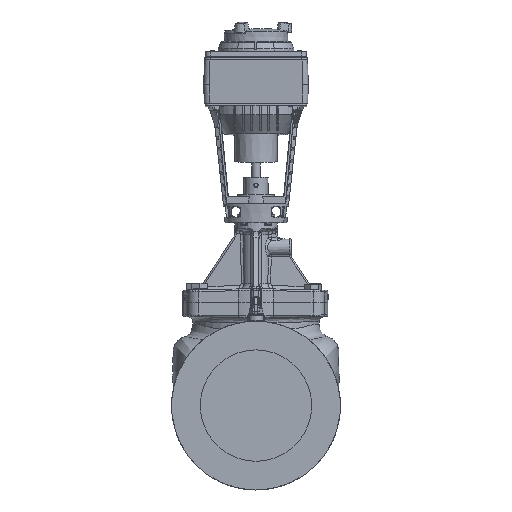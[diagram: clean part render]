
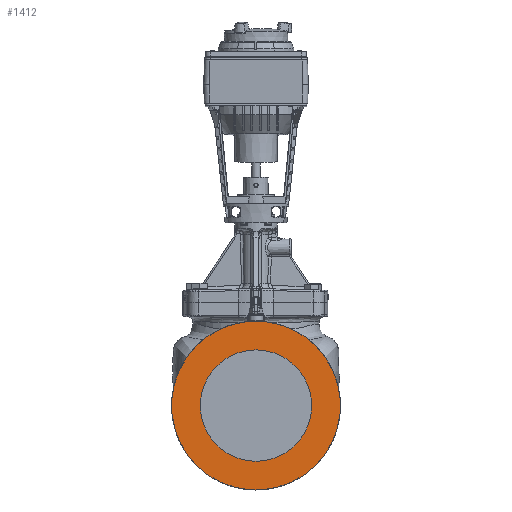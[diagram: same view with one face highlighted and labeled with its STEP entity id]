
A CAD part, left-side view. The second image highlights one B-rep face of the part: STEP entity #1412.
In plain terms, the highlighted planar face has unit normal (-1, 0, 0).
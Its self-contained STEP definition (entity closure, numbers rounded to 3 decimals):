
#1377=CARTESIAN_POINT('',(-152.0,0.0,88.0));
#1378=DIRECTION('',(1.0,0.0,0.0));
#1379=DIRECTION('',(0.0,0.0,-1.0));
#1380=AXIS2_PLACEMENT_3D('',#1377,#1378,#1379);
#1381=PLANE('',#1380);
#1382=CARTESIAN_POINT('',(-152.0,-9.987,99.5));
#1383=VERTEX_POINT('',#1382);
#1384=CARTESIAN_POINT('',(-152.0,9.987,99.5));
#1385=VERTEX_POINT('',#1384);
#1386=CARTESIAN_POINT('',(-152.0,0.0,0.0));
#1387=DIRECTION('',(1.0,0.0,0.0));
#1388=DIRECTION('',(0.0,0.0,1.0));
#1389=AXIS2_PLACEMENT_3D('',#1386,#1387,#1388);
#1390=CIRCLE('',#1389,100.0);
#1391=EDGE_CURVE('',#1383,#1385,#1390,.T.);
#1392=ORIENTED_EDGE('',*,*,#1391,.F.);
#1393=CARTESIAN_POINT('',(-152.0,9.987,99.5));
#1394=DIRECTION('',(0.0,-1.0,0.0));
#1395=VECTOR('',#1394,19.975);
#1396=LINE('',#1393,#1395);
#1397=EDGE_CURVE('',#1385,#1383,#1396,.T.);
#1398=ORIENTED_EDGE('',*,*,#1397,.F.);
#1399=EDGE_LOOP('',(#1392,#1398));
#1400=FACE_OUTER_BOUND('',#1399,.T.);
#1401=CARTESIAN_POINT('',(-152.0,0.0,66.0));
#1402=VERTEX_POINT('',#1401);
#1403=CARTESIAN_POINT('',(-152.0,0.0,0.0));
#1404=DIRECTION('',(1.0,0.0,0.0));
#1405=DIRECTION('',(0.0,0.0,1.0));
#1406=AXIS2_PLACEMENT_3D('',#1403,#1404,#1405);
#1407=CIRCLE('',#1406,66.0);
#1408=EDGE_CURVE('',#1402,#1402,#1407,.T.);
#1409=ORIENTED_EDGE('',*,*,#1408,.T.);
#1410=EDGE_LOOP('',(#1409));
#1411=FACE_BOUND('',#1410,.T.);
#1412=ADVANCED_FACE('',(#1400,#1411),#1381,.F.);
